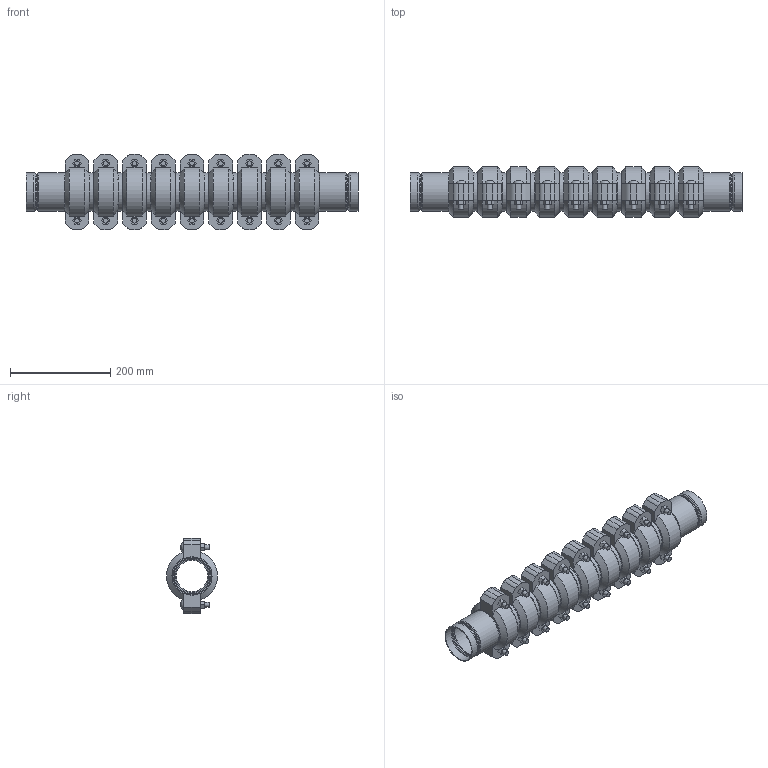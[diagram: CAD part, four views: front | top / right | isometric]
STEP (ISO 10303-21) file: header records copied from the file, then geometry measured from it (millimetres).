
FILE_DESCRIPTION(/* description */ ('VIC STRENGTHIN 100 EXPANSION JOINT 9 COUPLINGS COMPRESSED STYLE E155 (ST1)','CAx-IF Rec.Pracs.---Representation and Presentation of Product Manufacturing Information (PMI)---4.0---2014-10-13'),/* implementation_level */ '2;1');
FILE_NAME(/* name */ 'C:\Users\Vjadhav\AppData\Roaming\Autodesk\ApplicationPlugins\Victaulic.Temp\A705\Victaulic_SS-StrengThin 100_Expansion Joint_Compressed_9 Couplings_Style E155 (ST1)_02.5 (76.1) (65).stp',/* time_stamp */ '2021-07-23T12:37:19+05:00',/* author */ ('kkamble'),/* organization */ ('Victaulic'),/* preprocessor_version */ 'ST-DEVELOPER v17.2',/* originating_system */ 'Autodesk Inventor 2019',/* authorisation */ '');
FILE_SCHEMA (('AP242_MANAGED_MODEL_BASED_3D_ENGINEERING_MIM_LF { 1 0 10303 442 1 1 4 }'));
Length unit declared in the file: inch
Products named in the file (4): E155-02.5 (76.1); E494G-02.5 (76.1); Nipple-02.5 (76.1); 075-02.5 (76.1)
Assembly tree (19 placements, depth 2):
  E155-02.5 (76.1)
    E494G-02.5 (76.1)  x2
    Nipple-02.5 (76.1)  x8
    075-02.5 (76.1)  x9
Bounding box: 661.92 x 101.25 x 149.86 mm (x, y, z)
Volume: 2668237.3 mm3; surface area: 732120.9 mm2
Topology: 19 solids, 37 shells, 641 faces, 1641 edges, 1150 vertices
Faces by surface type: plane 366, cylinder 185, cone 40, torus 32, bspline 18
Full cylindrical faces by diameter (mm): 9.525 x36, 11.43 x18, 62.713 x8, 67.158 x2, 69.063 x2, 70.358 x2, 72.263 x18, 73 x6, 76.2 x39
Entity records: 3761 total; most frequent: CARTESIAN_POINT 683, DIRECTION 665, ORIENTED_EDGE 544, AXIS2_PLACEMENT_3D 283, EDGE_CURVE 272, VERTEX_POINT 195, CIRCLE 163, EDGE_LOOP 121
